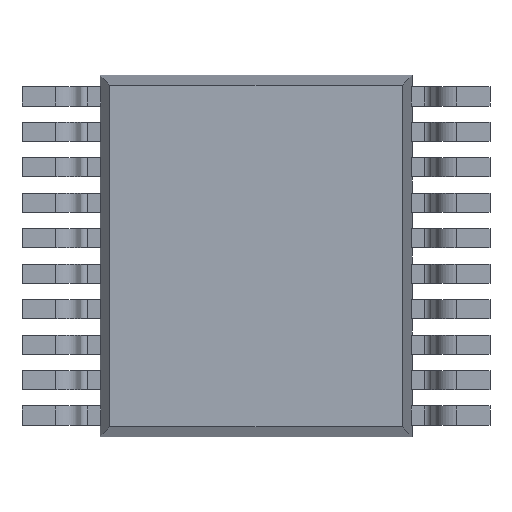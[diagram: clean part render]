
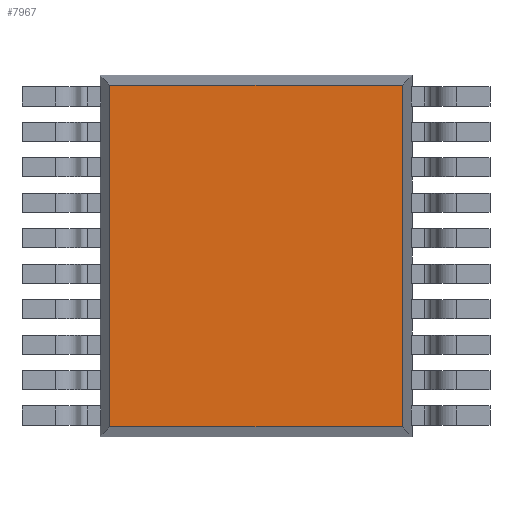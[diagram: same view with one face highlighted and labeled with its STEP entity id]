
A CAD part, front view. The second image highlights one B-rep face of the part: STEP entity #7967.
In plain terms, the highlighted planar face has unit normal (0, -1, 0).
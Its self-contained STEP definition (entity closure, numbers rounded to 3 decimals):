
#176 = EDGE_LOOP ( 'NONE', ( #4387, #4386, #4385, #4384 ) ) ;
#380 = VERTEX_POINT ( 'NONE', #3526 ) ;
#389 = VERTEX_POINT ( 'NONE', #3515 ) ;
#405 = VERTEX_POINT ( 'NONE', #3496 ) ;
#419 = VERTEX_POINT ( 'NONE', #3480 ) ;
#1255 = LINE ( 'NONE', #2663, #1272 ) ;
#1267 = LINE ( 'NONE', #2666, #1276 ) ;
#1272 = VECTOR ( 'NONE', #2672, 1000. ) ;
#1276 = VECTOR ( 'NONE', #2674, 1000. ) ;
#2663 = CARTESIAN_POINT ( 'NONE',  ( 2.2, 0.1, -2.409 ) ) ;
#2666 = CARTESIAN_POINT ( 'NONE',  ( 2.2, 0.1, 2.409 ) ) ;
#2672 = DIRECTION ( 'NONE',  ( 1., 0., 0. ) ) ;
#2674 = DIRECTION ( 'NONE',  ( -1., 0., 0. ) ) ;
#3030 = LINE ( 'NONE', #11079, #3033 ) ;
#3033 = VECTOR ( 'NONE', #11080, 1000. ) ;
#3046 = LINE ( 'NONE', #11095, #3049 ) ;
#3049 = VECTOR ( 'NONE', #11096, 1000. ) ;
#3480 = CARTESIAN_POINT ( 'NONE',  ( -2.059, 0.1, -2.409 ) ) ;
#3496 = CARTESIAN_POINT ( 'NONE',  ( -2.059, 0.1, 2.409 ) ) ;
#3515 = CARTESIAN_POINT ( 'NONE',  ( 2.059, 0.1, -2.409 ) ) ;
#3526 = CARTESIAN_POINT ( 'NONE',  ( 2.059, 0.1, 2.409 ) ) ;
#4384 = ORIENTED_EDGE ( 'NONE', *, *, #5776, .T. ) ;
#4385 = ORIENTED_EDGE ( 'NONE', *, *, #6430, .T. ) ;
#4386 = ORIENTED_EDGE ( 'NONE', *, *, #5775, .T. ) ;
#4387 = ORIENTED_EDGE ( 'NONE', *, *, #6438, .T. ) ;
#5775 = EDGE_CURVE ( 'NONE', #419, #389, #1255, .T. ) ;
#5776 = EDGE_CURVE ( 'NONE', #380, #405, #1267, .T. ) ;
#6430 = EDGE_CURVE ( 'NONE', #389, #380, #3030, .T. ) ;
#6438 = EDGE_CURVE ( 'NONE', #405, #419, #3046, .T. ) ;
#7884 = AXIS2_PLACEMENT_3D ( 'NONE', #12500, #12512, #12513 ) ;
#7967 = ADVANCED_FACE ( 'NONE', ( #12984 ), #12499, .F. ) ;
#11079 = CARTESIAN_POINT ( 'NONE',  ( 2.059, 0.1, 2.55 ) ) ;
#11080 = DIRECTION ( 'NONE',  ( 0., 0., 1. ) ) ;
#11095 = CARTESIAN_POINT ( 'NONE',  ( -2.059, 0.1, 2.55 ) ) ;
#11096 = DIRECTION ( 'NONE',  ( 0., 0., -1. ) ) ;
#12499 = PLANE ( 'NONE',  #7884 ) ;
#12500 = CARTESIAN_POINT ( 'NONE',  ( 0., 0.1, 0. ) ) ;
#12512 = DIRECTION ( 'NONE',  ( 0., 1., 0. ) ) ;
#12513 = DIRECTION ( 'NONE',  ( 0., 0., 1. ) ) ;
#12984 = FACE_OUTER_BOUND ( 'NONE', #176, .T. ) ;
